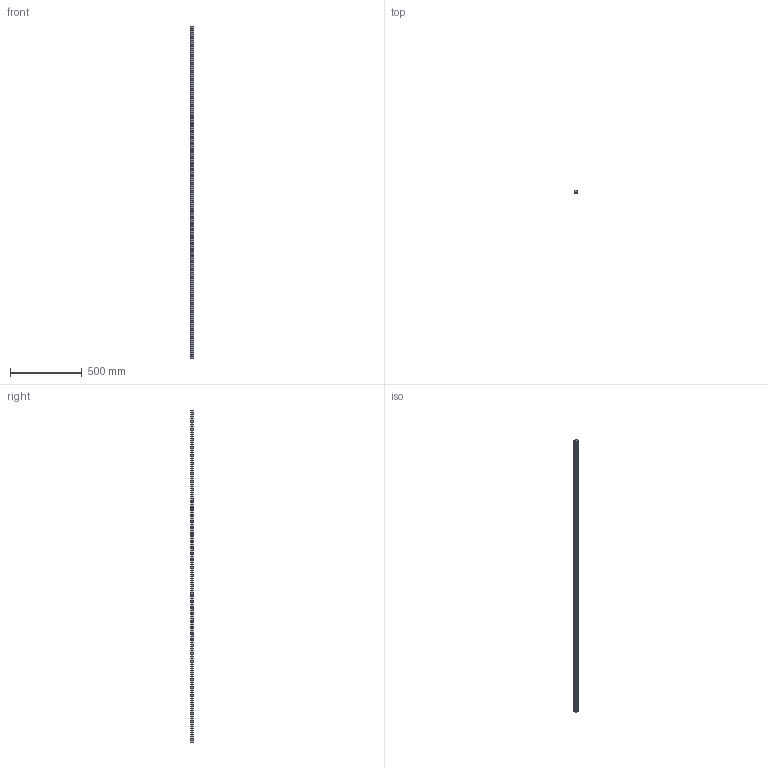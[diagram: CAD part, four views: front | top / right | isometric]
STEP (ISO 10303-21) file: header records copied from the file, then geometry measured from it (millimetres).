
FILE_DESCRIPTION (( 'STEP AP203' ), '1' );
FILE_NAME ('L1016.BRF25-2320.step', '2019-06-13T08:41:49', ( '' ), ( '' ), 'SwSTEP 2.0', 'SolidWorks 2017', '' );
FILE_SCHEMA (( 'CONFIG_CONTROL_DESIGN' ));
Length unit declared in the file: millimetre
Products named in the file (1): L1016.BRF25-2320
Bounding box: 23 x 19.2 x 2320 mm (x, y, z)
Volume: 885756.4 mm3; surface area: 213682.7 mm2
Topology: 1 solids, 1 shells, 299 faces, 696 edges, 399 vertices
Faces by surface type: cylinder 160, cone 78, plane 61
Entity records: 8077 total; most frequent: DIRECTION 1538, CARTESIAN_POINT 1317, ORIENTED_EDGE 1236, AXIS2_PLACEMENT_3D 620, EDGE_CURVE 618, VERTEX_POINT 399, EDGE_LOOP 377, CIRCLE 320
